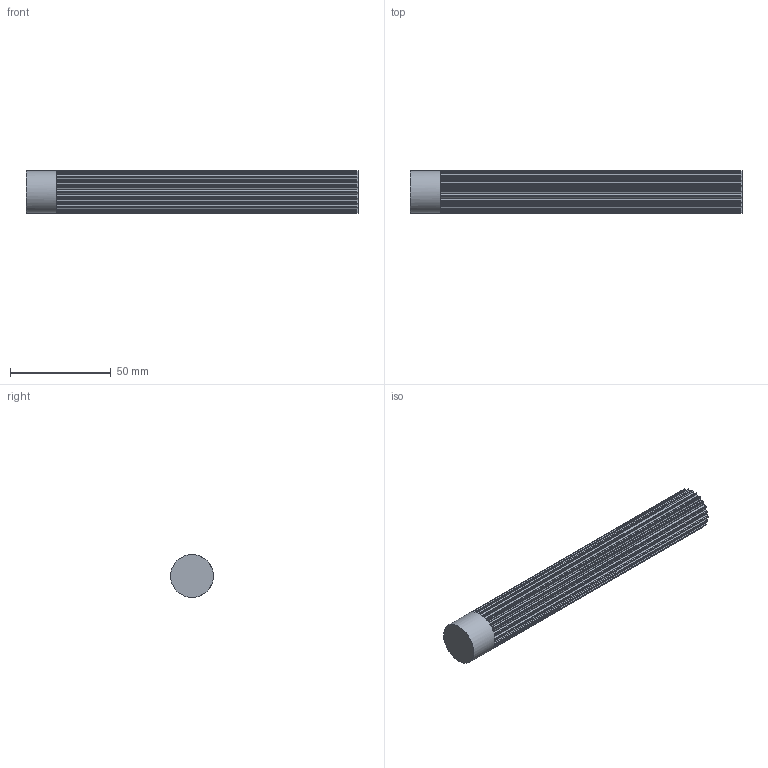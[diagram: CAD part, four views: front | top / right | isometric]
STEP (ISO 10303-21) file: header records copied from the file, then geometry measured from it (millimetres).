
FILE_DESCRIPTION( ( 'STEP AP214' ), '1' );
FILE_NAME( 'C:/Users/StangenbergN/Desktop/Steps Zahnriemenräder/K166_HTD-Zahnwellen/17092300.stp', '2019-06-06T09:34:05', ( '' ), ( '' ), ' ', 'PARTsolutions', ' ' );
FILE_SCHEMA( ( 'AUTOMOTIVE_DESIGN { 1 0 10303 214 1 1 1 1 }' ) );
Length unit declared in the file: millimetre
Products named in the file (1): _17092300
Bounding box: 165 x 21.2 x 21.2 mm (x, y, z)
Volume: 50986.3 mm3; surface area: 15325.9 mm2
Topology: 1 solids, 1 shells, 187 faces, 555 edges, 370 vertices
Faces by surface type: plane 94, cylinder 93
Full cylindrical faces by diameter (mm): 21.2 x1
Entity records: 7858 total; most frequent: DIRECTION 1160, CARTESIAN_POINT 1110, ORIENTED_EDGE 1106, EDGE_CURVE 553, AXIS2_PLACEMENT_3D 419, VERTEX_POINT 369, LINE 322, VECTOR 322
